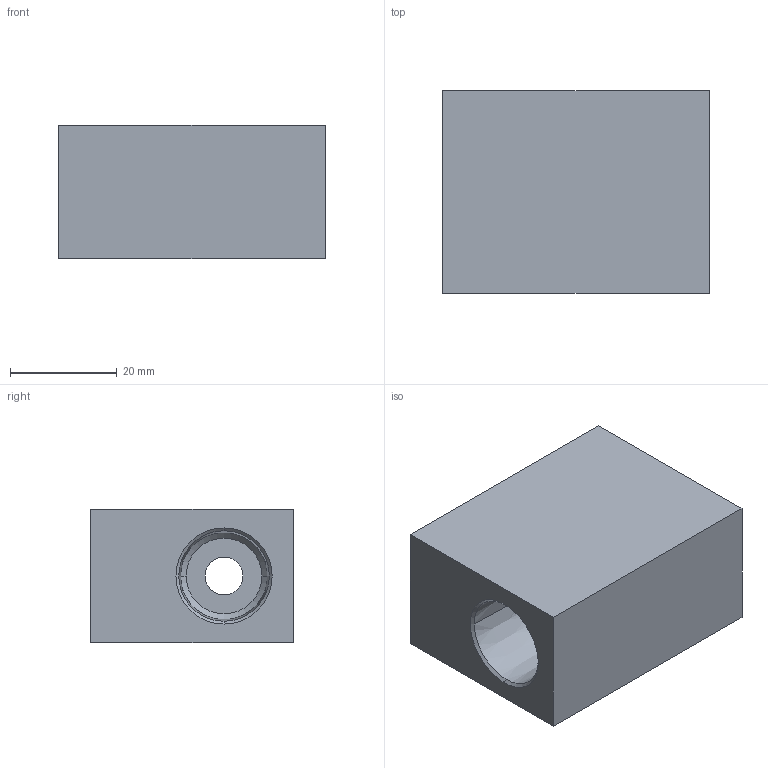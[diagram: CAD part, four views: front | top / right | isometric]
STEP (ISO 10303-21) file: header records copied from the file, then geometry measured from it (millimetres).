
FILE_DESCRIPTION (( 'STEP AP203' ), '1' );
FILE_NAME ('FTNTS06.STEP', '2026-06-26T01:41:32', ( 'USER' ), ( '' ), 'SwSTEP 2.0', 'SolidWorks 2023', '' );
FILE_SCHEMA (( 'CONFIG_CONTROL_DESIGN' ));
Length unit declared in the file: millimetre
Products named in the file (1): FTNTS06
Bounding box: 50 x 38 x 25 mm (x, y, z)
Volume: 36486.2 mm3; surface area: 10853.2 mm2
Topology: 1 solids, 1 shells, 37 faces, 87 edges, 54 vertices
Faces by surface type: cone 18, cylinder 10, plane 9
Entity records: 1152 total; most frequent: DIRECTION 201, CARTESIAN_POINT 191, ORIENTED_EDGE 174, EDGE_CURVE 87, AXIS2_PLACEMENT_3D 80, VERTEX_POINT 54, EDGE_LOOP 43, CIRCLE 42
